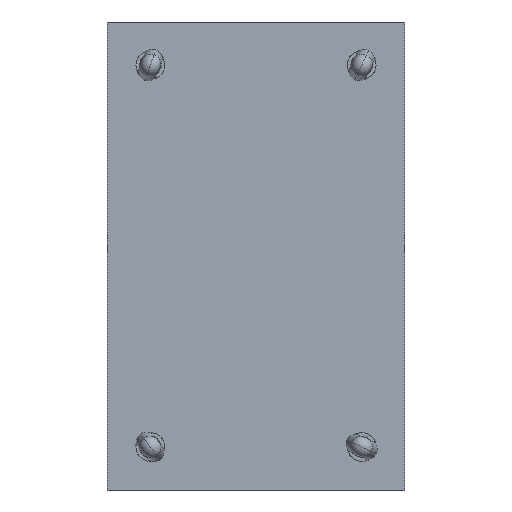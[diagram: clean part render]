
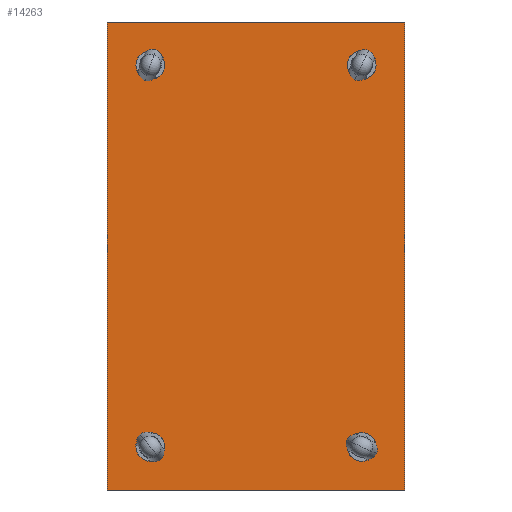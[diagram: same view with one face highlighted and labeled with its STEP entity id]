
A CAD part, front view. The second image highlights one B-rep face of the part: STEP entity #14263.
In plain terms, the highlighted planar face has unit normal (0, -1, 0).
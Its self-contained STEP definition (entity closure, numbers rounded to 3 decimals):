
#362 = DIRECTION ( 'NONE',  ( 0., -1., 0. ) ) ;
#417 = CARTESIAN_POINT ( 'NONE',  ( -18.415, 0., -28.956 ) ) ;
#510 = CARTESIAN_POINT ( 'NONE',  ( -18.415, 0., 28.956 ) ) ;
#919 = CARTESIAN_POINT ( 'NONE',  ( 18.415, 0., 28.956 ) ) ;
#1040 = DIRECTION ( 'NONE',  ( 0., -1., 0. ) ) ;
#1058 = AXIS2_PLACEMENT_3D ( 'NONE', #19316, #21291, #17450 ) ;
#1111 = ORIENTED_EDGE ( 'NONE', *, *, #19059, .F. ) ;
#1142 = CARTESIAN_POINT ( 'NONE',  ( 13.081, 0., 25.4 ) ) ;
#1606 = AXIS2_PLACEMENT_3D ( 'NONE', #7457, #22720, #5738 ) ;
#1672 = CARTESIAN_POINT ( 'NONE',  ( -13.081, 0., -25.4 ) ) ;
#1757 = EDGE_CURVE ( 'NONE', #18458, #3087, #15061, .T. ) ;
#1783 = CARTESIAN_POINT ( 'NONE',  ( 13.081, 0., -23.622 ) ) ;
#1787 = CARTESIAN_POINT ( 'NONE',  ( 13.081, 0., 23.622 ) ) ;
#1822 = CARTESIAN_POINT ( 'NONE',  ( -13.081, 0., -21.844 ) ) ;
#1839 = ORIENTED_EDGE ( 'NONE', *, *, #10409, .F. ) ;
#1910 = FACE_BOUND ( 'NONE', #15800, .T. ) ;
#2166 = DIRECTION ( 'NONE',  ( 0., 0., -1. ) ) ;
#2386 = EDGE_CURVE ( 'NONE', #4118, #20982, #3196, .T. ) ;
#2578 = CARTESIAN_POINT ( 'NONE',  ( 13.081, 0., 23.622 ) ) ;
#2634 = VECTOR ( 'NONE', #24135, 1000. ) ;
#2658 = LINE ( 'NONE', #919, #22961 ) ;
#3087 = VERTEX_POINT ( 'NONE', #18480 ) ;
#3196 = CIRCLE ( 'NONE', #1606, 1.778 ) ;
#3631 = PLANE ( 'NONE',  #18208 ) ;
#3662 = DIRECTION ( 'NONE',  ( 0., -1., 0. ) ) ;
#3698 = LINE ( 'NONE', #11342, #21519 ) ;
#3718 = ORIENTED_EDGE ( 'NONE', *, *, #18160, .F. ) ;
#3877 = DIRECTION ( 'NONE',  ( 0., -1., 0. ) ) ;
#4118 = VERTEX_POINT ( 'NONE', #1822 ) ;
#4142 = ORIENTED_EDGE ( 'NONE', *, *, #6291, .F. ) ;
#4226 = CARTESIAN_POINT ( 'NONE',  ( -18.415, 0., 28.956 ) ) ;
#4283 = ORIENTED_EDGE ( 'NONE', *, *, #22548, .F. ) ;
#4307 = DIRECTION ( 'NONE',  ( 0., 0., -1. ) ) ;
#4566 = AXIS2_PLACEMENT_3D ( 'NONE', #2578, #362, #4307 ) ;
#4667 = EDGE_LOOP ( 'NONE', ( #1839, #22028 ) ) ;
#5101 = EDGE_CURVE ( 'NONE', #13839, #14425, #18604, .T. ) ;
#5172 = EDGE_LOOP ( 'NONE', ( #8746, #4283 ) ) ;
#5403 = CARTESIAN_POINT ( 'NONE',  ( 13.081, 0., 21.844 ) ) ;
#5459 = DIRECTION ( 'NONE',  ( 0., 0., -1. ) ) ;
#5475 = DIRECTION ( 'NONE',  ( 0., 1., 0. ) ) ;
#5738 = DIRECTION ( 'NONE',  ( 0., 0., -1. ) ) ;
#6291 = EDGE_CURVE ( 'NONE', #20982, #4118, #8132, .T. ) ;
#6719 = FACE_BOUND ( 'NONE', #9075, .T. ) ;
#6997 = CARTESIAN_POINT ( 'NONE',  ( 13.081, 0., -21.844 ) ) ;
#7287 = CARTESIAN_POINT ( 'NONE',  ( -13.081, 0., 21.844 ) ) ;
#7416 = CIRCLE ( 'NONE', #12955, 1.778 ) ;
#7457 = CARTESIAN_POINT ( 'NONE',  ( -13.081, 0., -23.622 ) ) ;
#7557 = FACE_BOUND ( 'NONE', #4667, .T. ) ;
#7588 = CARTESIAN_POINT ( 'NONE',  ( -13.081, 0., -23.622 ) ) ;
#8132 = CIRCLE ( 'NONE', #18732, 1.778 ) ;
#8267 = VERTEX_POINT ( 'NONE', #6997 ) ;
#8484 = VERTEX_POINT ( 'NONE', #17799 ) ;
#8602 = ORIENTED_EDGE ( 'NONE', *, *, #22672, .F. ) ;
#8746 = ORIENTED_EDGE ( 'NONE', *, *, #1757, .F. ) ;
#9075 = EDGE_LOOP ( 'NONE', ( #11016, #3718 ) ) ;
#9401 = FACE_OUTER_BOUND ( 'NONE', #11908, .T. ) ;
#9493 = EDGE_CURVE ( 'NONE', #11329, #15921, #17110, .T. ) ;
#9628 = ORIENTED_EDGE ( 'NONE', *, *, #10337, .T. ) ;
#9758 = DIRECTION ( 'NONE',  ( 1., 0., 0. ) ) ;
#10337 = EDGE_CURVE ( 'NONE', #14425, #8484, #3698, .T. ) ;
#10409 = EDGE_CURVE ( 'NONE', #15475, #8267, #14065, .T. ) ;
#10549 = DIRECTION ( 'NONE',  ( 0., 0., -1. ) ) ;
#11016 = ORIENTED_EDGE ( 'NONE', *, *, #9493, .F. ) ;
#11032 = DIRECTION ( 'NONE',  ( 0., 0., -1. ) ) ;
#11272 = DIRECTION ( 'NONE',  ( 0., 0., -1. ) ) ;
#11329 = VERTEX_POINT ( 'NONE', #5403 ) ;
#11342 = CARTESIAN_POINT ( 'NONE',  ( -18.415, 0., -28.956 ) ) ;
#11478 = LINE ( 'NONE', #4226, #15286 ) ;
#11908 = EDGE_LOOP ( 'NONE', ( #1111, #8602, #15204, #9628 ) ) ;
#12915 = EDGE_CURVE ( 'NONE', #8267, #15475, #19084, .T. ) ;
#12955 = AXIS2_PLACEMENT_3D ( 'NONE', #13211, #18730, #5459 ) ;
#13211 = CARTESIAN_POINT ( 'NONE',  ( -13.081, 0., 23.622 ) ) ;
#13839 = VERTEX_POINT ( 'NONE', #510 ) ;
#14065 = CIRCLE ( 'NONE', #1058, 1.778 ) ;
#14263 = ADVANCED_FACE ( 'NONE', ( #23591, #6719, #1910, #7557, #9401 ), #3631, .F. ) ;
#14425 = VERTEX_POINT ( 'NONE', #417 ) ;
#14678 = AXIS2_PLACEMENT_3D ( 'NONE', #17893, #1040, #10549 ) ;
#14851 = CARTESIAN_POINT ( 'NONE',  ( -18.415, 0., 28.956 ) ) ;
#15061 = CIRCLE ( 'NONE', #14678, 1.778 ) ;
#15204 = ORIENTED_EDGE ( 'NONE', *, *, #5101, .T. ) ;
#15286 = VECTOR ( 'NONE', #9758, 1000. ) ;
#15475 = VERTEX_POINT ( 'NONE', #21621 ) ;
#15634 = AXIS2_PLACEMENT_3D ( 'NONE', #1787, #20846, #11032 ) ;
#15800 = EDGE_LOOP ( 'NONE', ( #4142, #16328 ) ) ;
#15921 = VERTEX_POINT ( 'NONE', #1142 ) ;
#16328 = ORIENTED_EDGE ( 'NONE', *, *, #2386, .F. ) ;
#16888 = VERTEX_POINT ( 'NONE', #18399 ) ;
#17110 = CIRCLE ( 'NONE', #4566, 1.778 ) ;
#17192 = CIRCLE ( 'NONE', #15634, 1.778 ) ;
#17450 = DIRECTION ( 'NONE',  ( 0., 0., -1. ) ) ;
#17799 = CARTESIAN_POINT ( 'NONE',  ( 18.415, 0., -28.956 ) ) ;
#17893 = CARTESIAN_POINT ( 'NONE',  ( -13.081, 0., 23.622 ) ) ;
#18160 = EDGE_CURVE ( 'NONE', #15921, #11329, #17192, .T. ) ;
#18208 = AXIS2_PLACEMENT_3D ( 'NONE', #14851, #5475, #18640 ) ;
#18399 = CARTESIAN_POINT ( 'NONE',  ( 18.415, 0., 28.956 ) ) ;
#18458 = VERTEX_POINT ( 'NONE', #7287 ) ;
#18480 = CARTESIAN_POINT ( 'NONE',  ( -13.081, 0., 25.4 ) ) ;
#18604 = LINE ( 'NONE', #20336, #2634 ) ;
#18640 = DIRECTION ( 'NONE',  ( 1., 0., 0. ) ) ;
#18730 = DIRECTION ( 'NONE',  ( 0., -1., 0. ) ) ;
#18732 = AXIS2_PLACEMENT_3D ( 'NONE', #7588, #3662, #2166 ) ;
#19059 = EDGE_CURVE ( 'NONE', #16888, #8484, #2658, .T. ) ;
#19084 = CIRCLE ( 'NONE', #24206, 1.778 ) ;
#19136 = DIRECTION ( 'NONE',  ( 0., 0., -1. ) ) ;
#19316 = CARTESIAN_POINT ( 'NONE',  ( 13.081, 0., -23.622 ) ) ;
#20336 = CARTESIAN_POINT ( 'NONE',  ( -18.415, 0., 28.956 ) ) ;
#20846 = DIRECTION ( 'NONE',  ( 0., -1., 0. ) ) ;
#20982 = VERTEX_POINT ( 'NONE', #1672 ) ;
#21291 = DIRECTION ( 'NONE',  ( 0., -1., 0. ) ) ;
#21519 = VECTOR ( 'NONE', #22292, 1000. ) ;
#21621 = CARTESIAN_POINT ( 'NONE',  ( 13.081, 0., -25.4 ) ) ;
#22028 = ORIENTED_EDGE ( 'NONE', *, *, #12915, .F. ) ;
#22292 = DIRECTION ( 'NONE',  ( 1., 0., 0. ) ) ;
#22548 = EDGE_CURVE ( 'NONE', #3087, #18458, #7416, .T. ) ;
#22672 = EDGE_CURVE ( 'NONE', #13839, #16888, #11478, .T. ) ;
#22720 = DIRECTION ( 'NONE',  ( 0., -1., 0. ) ) ;
#22961 = VECTOR ( 'NONE', #19136, 1000. ) ;
#23591 = FACE_BOUND ( 'NONE', #5172, .T. ) ;
#24135 = DIRECTION ( 'NONE',  ( 0., 0., -1. ) ) ;
#24206 = AXIS2_PLACEMENT_3D ( 'NONE', #1783, #3877, #11272 ) ;
